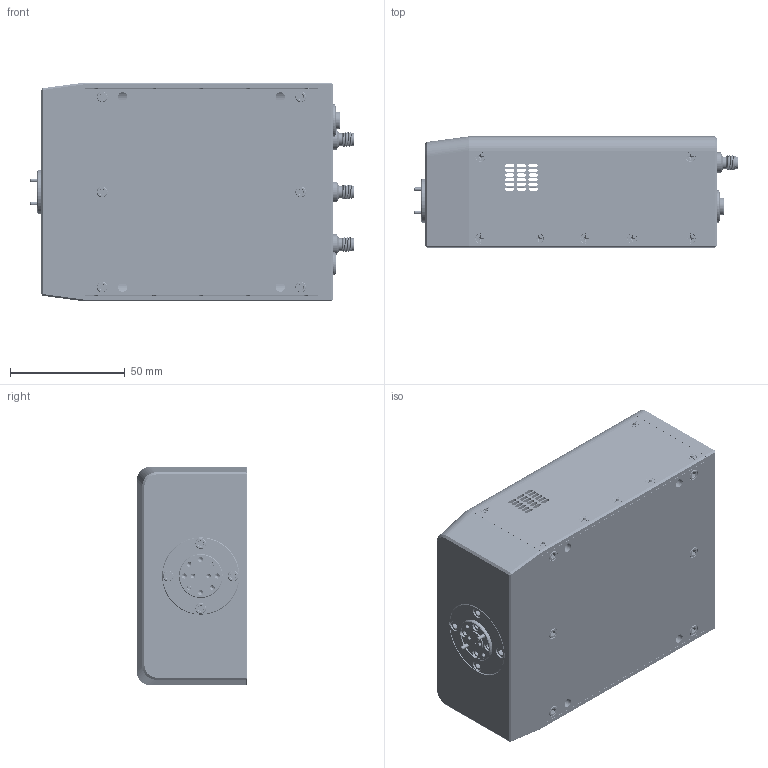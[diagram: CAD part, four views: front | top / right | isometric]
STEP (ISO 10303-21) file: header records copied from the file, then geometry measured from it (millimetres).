
FILE_DESCRIPTION (( 'STEP AP203' ), '1' );
FILE_NAME ('TO-TW-A Mountable.STEP', '2024-09-30T21:40:31', ( '' ), ( '' ), 'SwSTEP 2.0', 'SolidWorks 2021', '' );
FILE_SCHEMA (( 'CONFIG_CONTROL_DESIGN' ));
Length unit declared in the file: inch
Products named in the file (1): TO-TW-A Mountable
Bounding box: 140.66 x 48.26 x 95.25 mm (x, y, z)
Volume: 178099.2 mm3; surface area: 117270.8 mm2
Topology: 63 solids, 63 shells, 3748 faces, 9952 edges, 6327 vertices
Faces by surface type: cylinder 1751, plane 938, cone 679, bspline 351, sphere 21, torus 8
Entity records: 214034 total; most frequent: CARTESIAN_POINT 130476, ORIENTED_EDGE 19570, DIRECTION 15081, EDGE_CURVE 9785, VERTEX_POINT 6321, AXIS2_PLACEMENT_3D 5719, EDGE_LOOP 4132, FACE_OUTER_BOUND 3748
